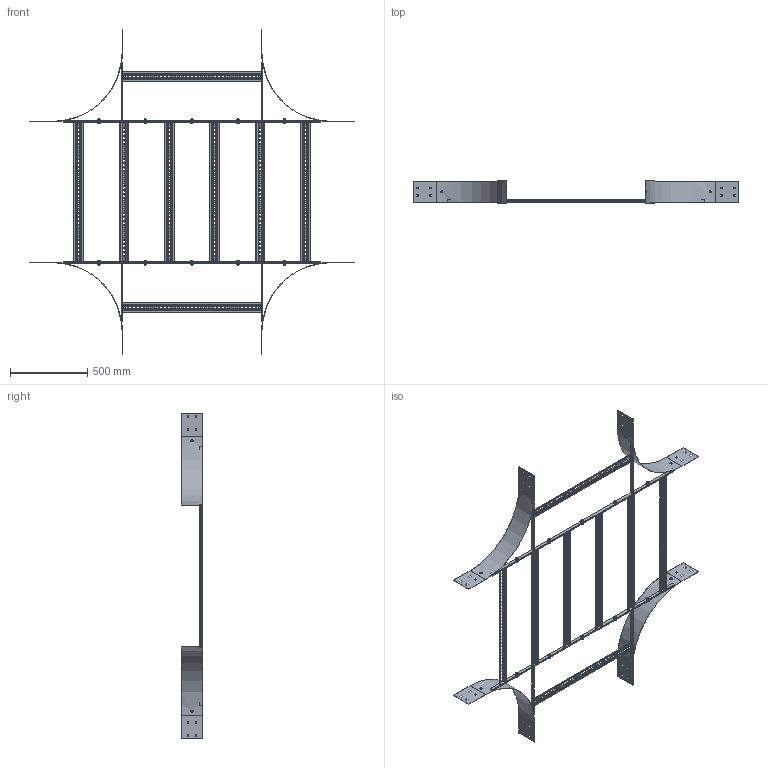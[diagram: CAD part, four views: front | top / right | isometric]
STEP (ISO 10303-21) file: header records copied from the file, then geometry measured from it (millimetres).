
FILE_DESCRIPTION (( 'STEP AP203' ), '1' );
FILE_NAME ('N20C C 9004.STEP', '2024-08-28T23:45:09', ( '' ), ( '' ), 'SwSTEP 2.0', 'SolidWorks 2023', '' );
FILE_SCHEMA (( 'CONFIG_CONTROL_DESIGN' ));
Length unit declared in the file: millimetre
Products named in the file (13): Ladder Tee 20x5 Flat Bar_1666; Fascia bolt - M10x25_Fascia bolt; Ladder Tee 20x5 Flat Bar_378; N20C RADIUS PLATE_N1-450 IR; CNH M10 Collar Nut_CNH M10 collar nut HDG; N20CC9004 vertical with sides_N20C C; Washers_M10 washer; Ladder Rung_Ladder Rung -  900mm; Fascia Kit M10x25_4th position; N20C C 9004; N20CC9004 horizontal_N20C C
Assembly tree (30 placements, depth 3):
  N20C C 9004
    N20CC9004 vertical with sides_N20C C  x2
      Ladder Tee 20x5 Flat Bar_1666
      N20C RADIUS PLATE_N1-450 IR
      Ladder Rung_Ladder Rung -  900mm
      Ladder Tee 20x5 Flat Bar_378
    N20CC9004 horizontal_N20C C
      Ladder Rung_Ladder Rung -  900mm  x6
      Ladder Tee 20x5 Flat Bar_1666
      Ladder Tee 20x5 Flat Bar_1666
    Fascia Kit M10x25_4th position  x10
      Fascia bolt - M10x25_Fascia bolt
      Washers_M10 washer
      CNH M10 Collar Nut_CNH M10 collar nut HDG
Bounding box: 2100 x 140 x 2110 mm (x, y, z)
Volume: 2738562.1 mm3; surface area: 2591875 mm2
Topology: 50 solids, 50 shells, 3636 faces, 9850 edges, 6354 vertices
Faces by surface type: plane 3068, cylinder 188, cone 140, bspline 140, torus 80, sphere 20
Entity records: 19246 total; most frequent: CARTESIAN_POINT 4498, ORIENTED_EDGE 2730, DIRECTION 2473, EDGE_CURVE 1365, LINE 1113, VECTOR 1113, VERTEX_POINT 885, AXIS2_PLACEMENT_3D 680
